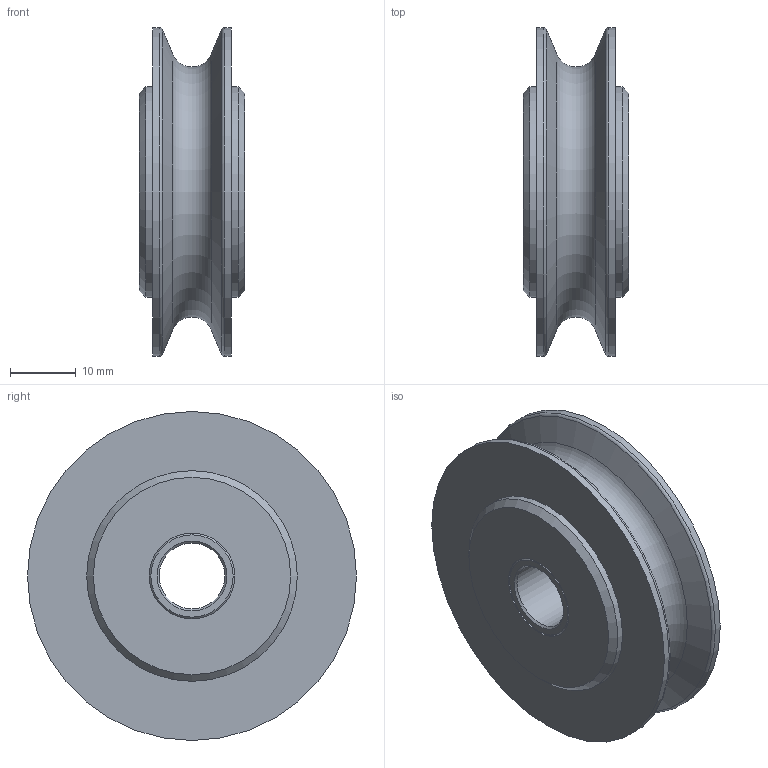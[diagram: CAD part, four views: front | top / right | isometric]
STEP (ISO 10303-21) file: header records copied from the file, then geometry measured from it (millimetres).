
FILE_DESCRIPTION(/* description */ ('Seilrolle ø50 VA Buchse komplett'),/* implementation_level */ '2;1');
FILE_NAME(/* name */ 'Z:\Workspace\03 Seilrollen\1.501 Seilrollen VA Gleitlager\1.501.01 Seilrolle ø50 VA Buchse\1.501.01 Seilrolle ø50 VA Buchse komplett.stp',/* time_stamp */ '2021-10-26T10:25:04+02:00',/* author */ ('cad-user'),/* organization */ (''),/* preprocessor_version */ 'ST-DEVELOPER v18',/* originating_system */ 'Autodesk Inventor 2020',/* authorisation */ '');
FILE_SCHEMA (('AUTOMOTIVE_DESIGN { 1 0 10303 214 3 1 1 }'));
Length unit declared in the file: millimetre
Products named in the file (3): 1.501.01 Seilrolle ø50 VA Buchse komplett; 1.501.01 Seilrolle ø50 VA Buchse; 101316BP25
Assembly tree (2 placements, depth 2):
  1.501.01 Seilrolle ø50 VA Buchse komplett
    1.501.01 Seilrolle ø50 VA Buchse
    101316BP25
Bounding box: 16 x 50 x 50 mm (x, y, z)
Volume: 19908.3 mm3; surface area: 8436.9 mm2
Topology: 2 solids, 2 shells, 24 faces, 70 edges, 52 vertices
Faces by surface type: cone 8, cylinder 7, plane 6, torus 3
Full cylindrical faces by diameter (mm): 10 x1, 13 x2, 32 x2, 50 x2
Entity records: 979 total; most frequent: DIRECTION 183, CARTESIAN_POINT 151, ORIENTED_EDGE 140, AXIS2_PLACEMENT_3D 84, EDGE_CURVE 70, CIRCLE 55, VERTEX_POINT 52, EDGE_LOOP 30
